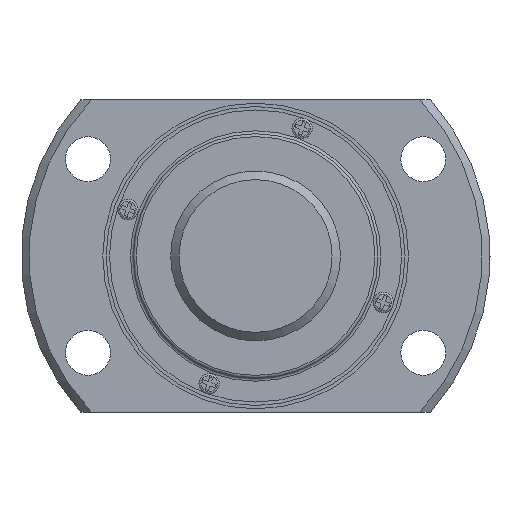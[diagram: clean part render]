
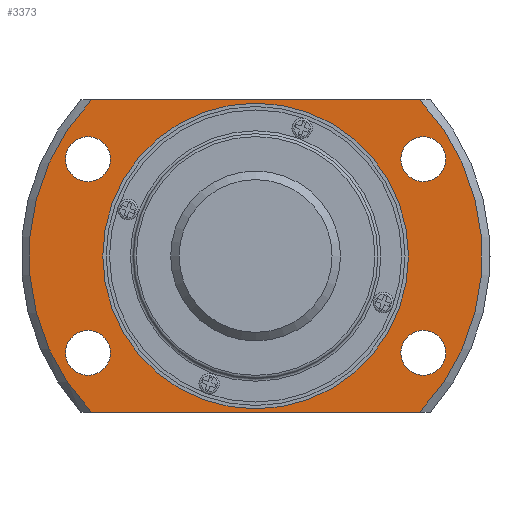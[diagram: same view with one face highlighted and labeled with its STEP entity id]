
A CAD part, left-side view. The second image highlights one B-rep face of the part: STEP entity #3373.
In plain terms, the highlighted planar face has unit normal (-1, 0, 0).
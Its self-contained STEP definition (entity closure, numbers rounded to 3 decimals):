
#36=LINE('',#5069,#364);
#37=LINE('',#5070,#365);
#364=VECTOR('',#4016,1000.);
#365=VECTOR('',#4017,1000.);
#720=PLANE('',#3623);
#886=ORIENTED_EDGE('',*,*,#1822,.T.);
#887=ORIENTED_EDGE('',*,*,#1823,.T.);
#888=ORIENTED_EDGE('',*,*,#1824,.T.);
#889=ORIENTED_EDGE('',*,*,#1825,.T.);
#890=ORIENTED_EDGE('',*,*,#1826,.T.);
#891=ORIENTED_EDGE('',*,*,#1817,.F.);
#892=ORIENTED_EDGE('',*,*,#1827,.T.);
#893=ORIENTED_EDGE('',*,*,#1820,.F.);
#894=ORIENTED_EDGE('',*,*,#1828,.T.);
#1817=EDGE_CURVE('',#2285,#2286,#2615,.T.);
#1820=EDGE_CURVE('',#2287,#2288,#2616,.T.);
#1822=EDGE_CURVE('',#2289,#2289,#2617,.T.);
#1823=EDGE_CURVE('',#2290,#2290,#2618,.T.);
#1824=EDGE_CURVE('',#2291,#2291,#2619,.T.);
#1825=EDGE_CURVE('',#2292,#2292,#2620,.T.);
#1826=EDGE_CURVE('',#2293,#2293,#2621,.T.);
#1827=EDGE_CURVE('',#2285,#2288,#36,.T.);
#1828=EDGE_CURVE('',#2287,#2286,#37,.T.);
#2285=VERTEX_POINT('',#5039);
#2286=VERTEX_POINT('',#5041);
#2287=VERTEX_POINT('',#5051);
#2288=VERTEX_POINT('',#5053);
#2289=VERTEX_POINT('',#5060);
#2290=VERTEX_POINT('',#5062);
#2291=VERTEX_POINT('',#5064);
#2292=VERTEX_POINT('',#5066);
#2293=VERTEX_POINT('',#5068);
#2615=CIRCLE('',#3620,33.35);
#2616=CIRCLE('',#3622,33.35);
#2617=CIRCLE('',#3624,22.5);
#2618=CIRCLE('',#3625,3.3);
#2619=CIRCLE('',#3626,3.3);
#2620=CIRCLE('',#3627,3.3);
#2621=CIRCLE('',#3628,3.3);
#2756=EDGE_LOOP('',(#886));
#2757=EDGE_LOOP('',(#887));
#2758=EDGE_LOOP('',(#888));
#2759=EDGE_LOOP('',(#889));
#2760=EDGE_LOOP('',(#890));
#2761=EDGE_LOOP('',(#891,#892,#893,#894));
#3040=FACE_BOUND('',#2756,.T.);
#3041=FACE_BOUND('',#2757,.T.);
#3042=FACE_BOUND('',#2758,.T.);
#3043=FACE_BOUND('',#2759,.T.);
#3044=FACE_BOUND('',#2760,.T.);
#3045=FACE_BOUND('',#2761,.T.);
#3373=ADVANCED_FACE('',(#3040,#3041,#3042,#3043,#3044,#3045),#720,.T.);
#3620=AXIS2_PLACEMENT_3D('',#5040,#3998,#3999);
#3622=AXIS2_PLACEMENT_3D('',#5052,#4002,#4003);
#3623=AXIS2_PLACEMENT_3D('',#5058,#4004,#4005);
#3624=AXIS2_PLACEMENT_3D('',#5059,#4006,#4007);
#3625=AXIS2_PLACEMENT_3D('',#5061,#4008,#4009);
#3626=AXIS2_PLACEMENT_3D('',#5063,#4010,#4011);
#3627=AXIS2_PLACEMENT_3D('',#5065,#4012,#4013);
#3628=AXIS2_PLACEMENT_3D('',#5067,#4014,#4015);
#3998=DIRECTION('',(1.,0.,0.));
#3999=DIRECTION('',(0.,0.,-1.));
#4002=DIRECTION('',(1.,0.,0.));
#4003=DIRECTION('',(0.,0.,-1.));
#4004=DIRECTION('',(-1.,0.,0.));
#4005=DIRECTION('',(0.,0.,1.));
#4006=DIRECTION('',(1.,0.,0.));
#4007=DIRECTION('',(0.,0.,-1.));
#4008=DIRECTION('',(1.,0.,0.));
#4009=DIRECTION('',(0.,0.,-1.));
#4010=DIRECTION('',(1.,0.,0.));
#4011=DIRECTION('',(0.,0.,-1.));
#4012=DIRECTION('',(1.,0.,0.));
#4013=DIRECTION('',(0.,0.,-1.));
#4014=DIRECTION('',(1.,0.,0.));
#4015=DIRECTION('',(0.,0.,-1.));
#4016=DIRECTION('',(0.,1.,0.));
#4017=DIRECTION('',(0.,-1.,0.));
#5039=CARTESIAN_POINT('',(8.5,-24.15,23.));
#5040=CARTESIAN_POINT('',(8.5,0.,0.));
#5041=CARTESIAN_POINT('',(8.5,-24.15,-23.));
#5051=CARTESIAN_POINT('',(8.5,24.15,-23.));
#5052=CARTESIAN_POINT('',(8.5,0.,0.));
#5053=CARTESIAN_POINT('',(8.5,24.15,23.));
#5058=CARTESIAN_POINT('',(8.5,33.35,0.));
#5059=CARTESIAN_POINT('',(8.5,0.,0.));
#5060=CARTESIAN_POINT('',(8.5,0.,-22.5));
#5061=CARTESIAN_POINT('',(8.5,-24.682,14.25));
#5062=CARTESIAN_POINT('',(8.5,-24.682,10.95));
#5063=CARTESIAN_POINT('',(8.5,24.682,-14.25));
#5064=CARTESIAN_POINT('',(8.5,24.682,-17.55));
#5065=CARTESIAN_POINT('',(8.5,-24.682,-14.25));
#5066=CARTESIAN_POINT('',(8.5,-24.682,-17.55));
#5067=CARTESIAN_POINT('',(8.5,24.682,14.25));
#5068=CARTESIAN_POINT('',(8.5,24.682,10.95));
#5069=CARTESIAN_POINT('',(8.5,33.35,23.));
#5070=CARTESIAN_POINT('',(8.5,33.35,-23.));
